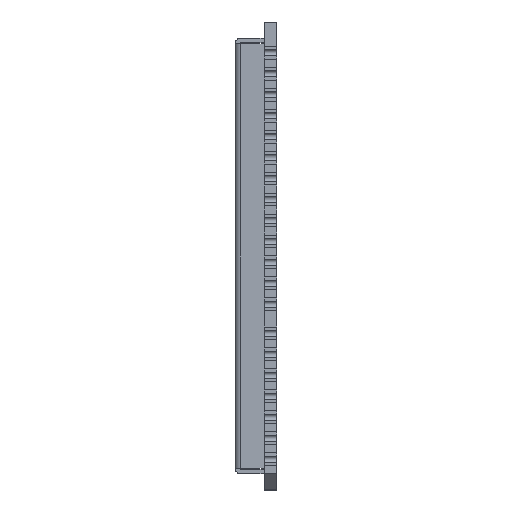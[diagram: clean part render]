
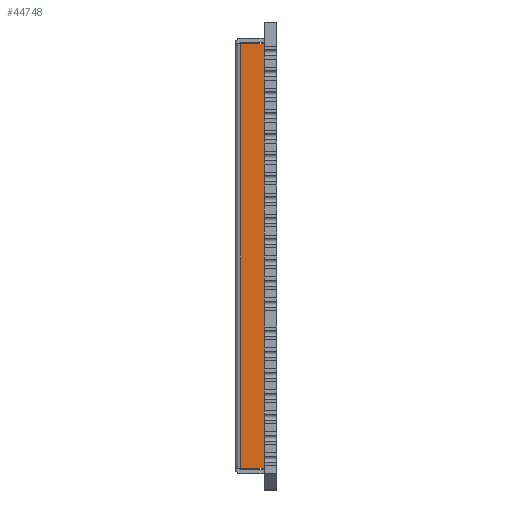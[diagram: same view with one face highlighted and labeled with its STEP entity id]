
A CAD part, left-side view. The second image highlights one B-rep face of the part: STEP entity #44748.
In plain terms, the highlighted planar face has unit normal (-1, 0, 0).
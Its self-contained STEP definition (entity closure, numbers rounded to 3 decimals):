
#1359 = VECTOR ( 'NONE', #29293, 1000. ) ;
#2368 = VERTEX_POINT ( 'NONE', #40173 ) ;
#6108 = VERTEX_POINT ( 'NONE', #43042 ) ;
#7531 = VERTEX_POINT ( 'NONE', #25226 ) ;
#9762 = DIRECTION ( 'NONE',  ( 0., 0., 1. ) ) ;
#10442 = DIRECTION ( 'NONE',  ( 1., 0., 0. ) ) ;
#12506 = ORIENTED_EDGE ( 'NONE', *, *, #51761, .T. ) ;
#13873 = CARTESIAN_POINT ( 'NONE',  ( -15., 45.561, 13.15 ) ) ;
#14079 = PLANE ( 'NONE',  #23705 ) ;
#14603 = VECTOR ( 'NONE', #47711, 1000. ) ;
#14937 = DIRECTION ( 'NONE',  ( 0., 0., -1. ) ) ;
#15777 = LINE ( 'NONE', #24419, #1359 ) ;
#21447 = VECTOR ( 'NONE', #9762, 1000. ) ;
#22331 = EDGE_LOOP ( 'NONE', ( #12506, #46953, #43456, #32515 ) ) ;
#23705 = AXIS2_PLACEMENT_3D ( 'NONE', #29682, #10442, #58210 ) ;
#24419 = CARTESIAN_POINT ( 'NONE',  ( -15., 45.561, -13.15 ) ) ;
#25226 = CARTESIAN_POINT ( 'NONE',  ( -15., 0.8, 13.15 ) ) ;
#29293 = DIRECTION ( 'NONE',  ( 0., 1., 0. ) ) ;
#29682 = CARTESIAN_POINT ( 'NONE',  ( -15., 45.561, 13.5 ) ) ;
#29750 = LINE ( 'NONE', #57739, #21447 ) ;
#31762 = EDGE_CURVE ( 'NONE', #32643, #2368, #15777, .T. ) ;
#32515 = ORIENTED_EDGE ( 'NONE', *, *, #31762, .F. ) ;
#32643 = VERTEX_POINT ( 'NONE', #55353 ) ;
#35758 = VECTOR ( 'NONE', #14937, 1000. ) ;
#40173 = CARTESIAN_POINT ( 'NONE',  ( -15., 2.25, -13.15 ) ) ;
#40288 = LINE ( 'NONE', #42160, #35758 ) ;
#42160 = CARTESIAN_POINT ( 'NONE',  ( -15., 2.25, -13.15 ) ) ;
#43042 = CARTESIAN_POINT ( 'NONE',  ( -15., 2.25, 13.15 ) ) ;
#43456 = ORIENTED_EDGE ( 'NONE', *, *, #52763, .T. ) ;
#44748 = ADVANCED_FACE ( 'NONE', ( #47953 ), #14079, .F. ) ;
#46953 = ORIENTED_EDGE ( 'NONE', *, *, #47609, .T. ) ;
#47609 = EDGE_CURVE ( 'NONE', #7531, #6108, #58439, .T. ) ;
#47711 = DIRECTION ( 'NONE',  ( 0., 1., 0. ) ) ;
#47953 = FACE_OUTER_BOUND ( 'NONE', #22331, .T. ) ;
#51761 = EDGE_CURVE ( 'NONE', #32643, #7531, #29750, .T. ) ;
#52763 = EDGE_CURVE ( 'NONE', #6108, #2368, #40288, .T. ) ;
#55353 = CARTESIAN_POINT ( 'NONE',  ( -15., 0.8, -13.15 ) ) ;
#57739 = CARTESIAN_POINT ( 'NONE',  ( -15., 0.8, 13.5 ) ) ;
#58210 = DIRECTION ( 'NONE',  ( 0., 0., -1. ) ) ;
#58439 = LINE ( 'NONE', #13873, #14603 ) ;
